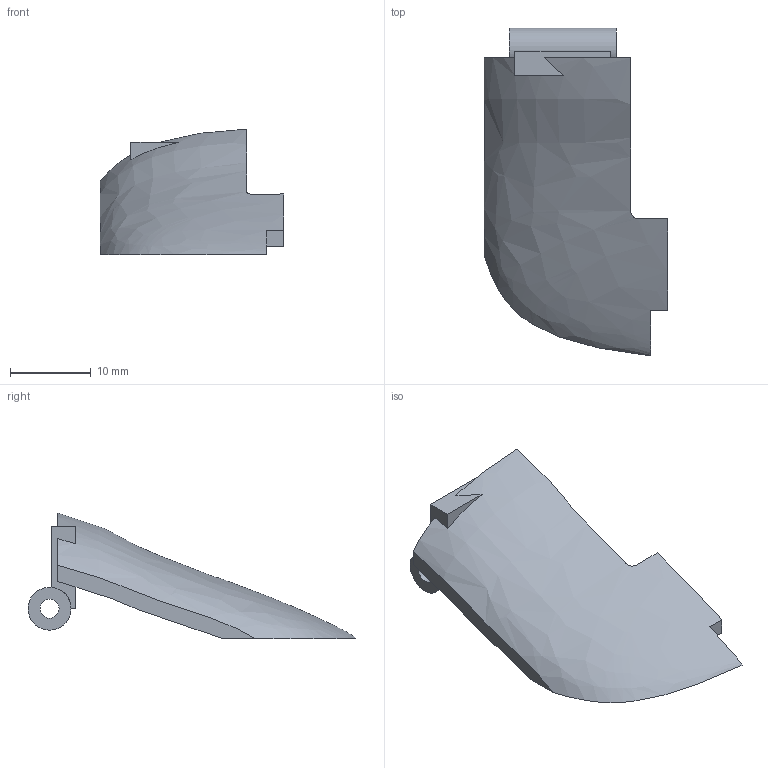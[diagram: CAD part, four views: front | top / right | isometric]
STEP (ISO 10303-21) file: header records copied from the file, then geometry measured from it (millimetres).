
FILE_DESCRIPTION(('Open CASCADE Model'),'2;1');
FILE_NAME('Open CASCADE Shape Model','2026-10-16T20:10:43',('Author'),( 'Open CASCADE'),'Open CASCADE STEP processor 7.9','Open CASCADE 7.9' ,'Unknown');
FILE_SCHEMA(('AUTOMOTIVE_DESIGN { 1 0 10303 214 1 1 1 1 }'));
Length unit declared in the file: millimetre
Products named in the file (1): Open CASCADE STEP translator 7.9 6
Bounding box: 22.7 x 40.47 x 15.52 mm (x, y, z)
Volume: 1780.4 mm3; surface area: 2203.1 mm2
Topology: 1 solids, 1 shells, 26 faces, 66 edges, 44 vertices
Faces by surface type: plane 19, cylinder 5, bspline 2
Full cylindrical faces by diameter (mm): 2.35 x1, 2.6 x1, 5.3 x1
Entity records: 18761 total; most frequent: CARTESIAN_POINT 17582, DIRECTION 161, ORIENTED_EDGE 132, PCURVE 132, DEFINITIONAL_REPRESENTATION 132, LINE 97, VECTOR 97, B_SPLINE_CURVE_WITH_KNOTS 87
